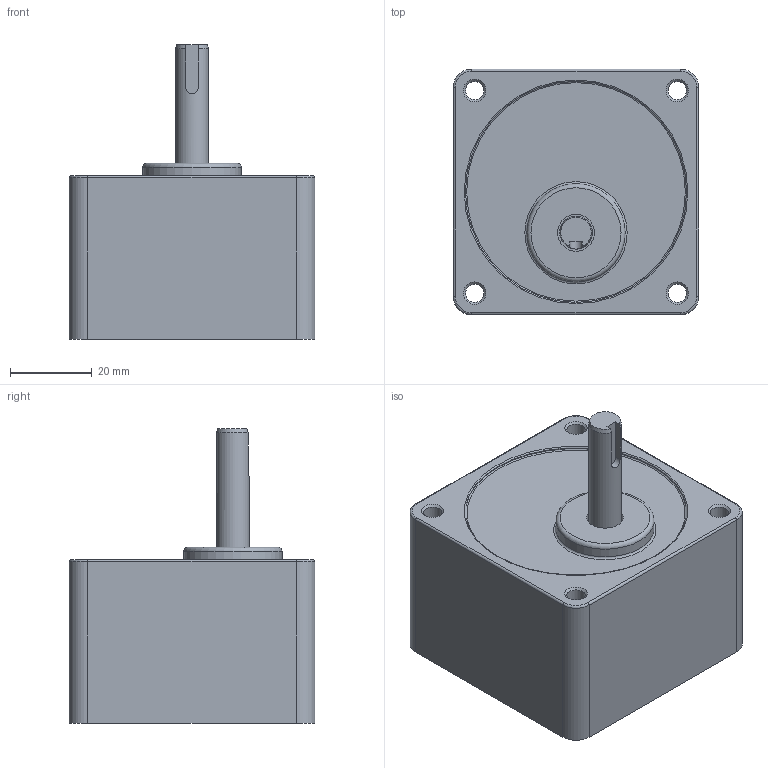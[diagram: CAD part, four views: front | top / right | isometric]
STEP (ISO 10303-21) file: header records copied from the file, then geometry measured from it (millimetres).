
FILE_DESCRIPTION((''),'2;1');
FILE_NAME('\\Spgrnd02\고객배포용도면\3D\01 Standard AC Motor\01 INDUCTION MOTOR\S6I06+S6DA\S6KA20~250.stp','2015-03-24T15:57:28',('smkim'),(''),'Autodesk Inventor 2012','Autodesk Inventor 2012','');
FILE_SCHEMA(('AUTOMOTIVE_DESIGN { 1 0 10303 214 1 1 1 1 }'));
Length unit declared in the file: millimetre
Products named in the file (1): S6KA20~250
Bounding box: 60 x 60 x 72 mm (x, y, z)
Volume: 130827.9 mm3; surface area: 20857 mm2
Topology: 1 solids, 1 shells, 47 faces, 102 edges, 63 vertices
Faces by surface type: cylinder 19, plane 15, torus 8, cone 5
Full cylindrical faces by diameter (mm): 4.5 x4, 6 x1, 8 x1, 9 x1, 24 x1, 53.997 x1, 54 x1
Entity records: 1248 total; most frequent: DIRECTION 225, CARTESIAN_POINT 215, ORIENTED_EDGE 166, AXIS2_PLACEMENT_3D 98, EDGE_CURVE 83, EDGE_LOOP 79, VERTEX_POINT 62, CIRCLE 50
